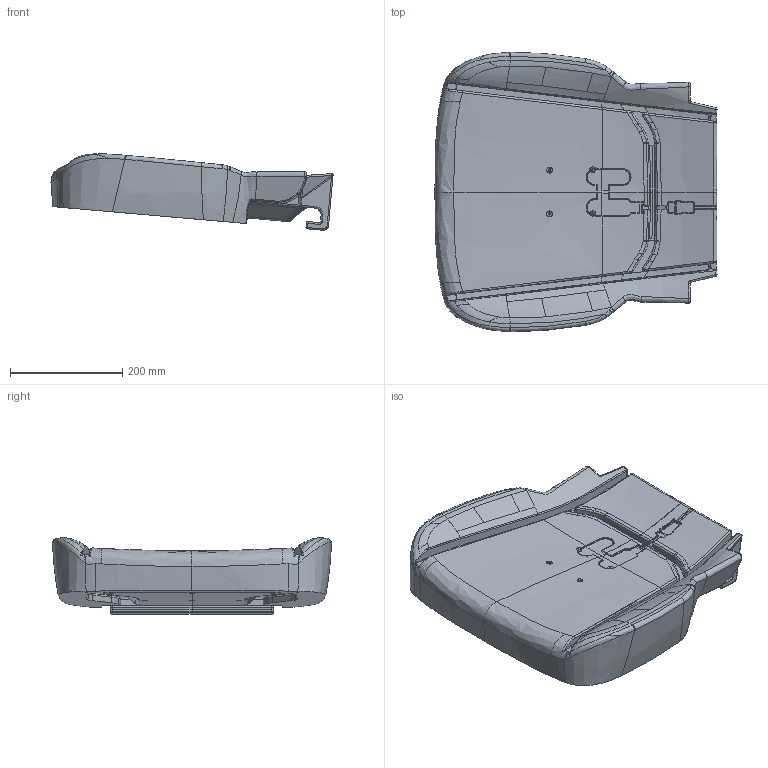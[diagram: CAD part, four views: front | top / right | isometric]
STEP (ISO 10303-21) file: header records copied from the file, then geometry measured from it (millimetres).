
FILE_DESCRIPTION(('CATIA V5 STEP'),'2;1');
FILE_NAME('D:\新建文件夹\宋国明\项目\02-福田A6-张甲\骨架钣金\输出\靠背坐垫发泡\SHT0016119.stp','2024-05-07T13:25:59+00:00',('none'),('none'),'CATIA Version 5 Release 20 GA (IN-10)','CATIA V5 STEP AP214','none');
FILE_SCHEMA(('AUTOMOTIVE_DESIGN { 1 0 10303 214 1 1 1 1 }'));
Products named in the file (5): SHT0016119; SHT0016120; SHT0017220; SHT0016413; SHT0011029
Assembly tree (4 placements, depth 2):
  SHT0016119
    SHT0016120
    SHT0017220
    SHT0016413
    SHT0011029
Bounding box: 501.87 x 497.09 x 136.05 mm (x, y, z)
Volume: 12828165.3 mm3; surface area: 1000421.7 mm2
Topology: 4 solids, 38 shells, 3477 faces, 9312 edges, 5787 vertices
Faces by surface type: plane 1864, bspline 867, cylinder 449, torus 199, sphere 74, cone 24
Entity records: 228075 total; most frequent: CARTESIAN_POINT 150864, ORIENTED_EDGE 18222, DIRECTION 11535, EDGE_CURVE 9190, VERTEX_POINT 5781, VECTOR 5672, LINE 5672, EDGE_LOOP 3503
